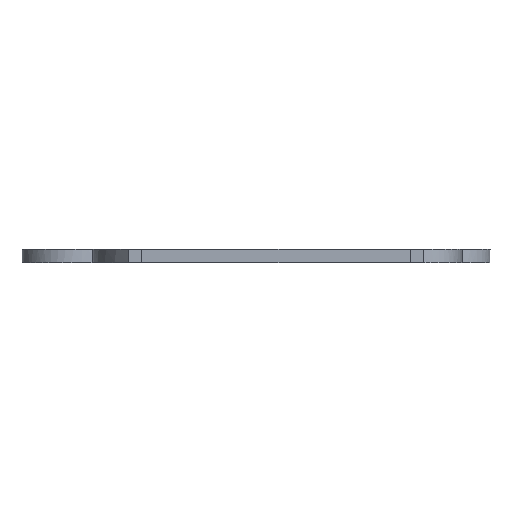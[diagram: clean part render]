
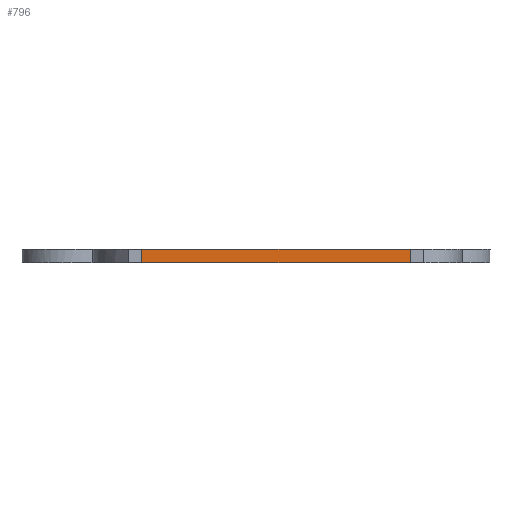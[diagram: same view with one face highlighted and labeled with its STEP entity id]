
A CAD part, front view. The second image highlights one B-rep face of the part: STEP entity #796.
In plain terms, the highlighted planar face has unit normal (0, -1, 0).
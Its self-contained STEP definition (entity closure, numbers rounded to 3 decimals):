
#64=PLANE('',#878);
#102=FACE_OUTER_BOUND('',#149,.T.);
#149=EDGE_LOOP('',(#691,#692,#693,#694));
#194=LINE('',#1121,#249);
#205=LINE('',#1230,#260);
#239=LINE('',#1433,#294);
#240=LINE('',#1435,#295);
#249=VECTOR('',#917,10.);
#260=VECTOR('',#958,10.);
#294=VECTOR('',#1054,10.);
#295=VECTOR('',#1057,10.);
#316=VERTEX_POINT('',#1118);
#317=VERTEX_POINT('',#1120);
#346=VERTEX_POINT('',#1227);
#347=VERTEX_POINT('',#1229);
#391=EDGE_CURVE('',#316,#317,#194,.T.);
#427=EDGE_CURVE('',#346,#347,#205,.T.);
#479=EDGE_CURVE('',#316,#347,#239,.T.);
#480=EDGE_CURVE('',#317,#346,#240,.T.);
#691=ORIENTED_EDGE('',*,*,#479,.T.);
#692=ORIENTED_EDGE('',*,*,#427,.F.);
#693=ORIENTED_EDGE('',*,*,#480,.F.);
#694=ORIENTED_EDGE('',*,*,#391,.F.);
#796=ADVANCED_FACE('',(#102),#64,.T.);
#878=AXIS2_PLACEMENT_3D('',#1434,#1055,#1056);
#917=DIRECTION('',(-1.,0.,0.));
#958=DIRECTION('',(1.,0.,0.));
#1054=DIRECTION('',(0.,0.,1.));
#1055=DIRECTION('center_axis',(0.,-1.,0.));
#1056=DIRECTION('ref_axis',(1.,0.,0.));
#1057=DIRECTION('',(0.,0.,1.));
#1118=CARTESIAN_POINT('',(50.,-19.8,-2.5));
#1120=CARTESIAN_POINT('',(-50.,-19.8,-2.5));
#1121=CARTESIAN_POINT('',(-50.,-19.8,-2.5));
#1227=CARTESIAN_POINT('',(-50.,-19.8,2.5));
#1229=CARTESIAN_POINT('',(50.,-19.8,2.5));
#1230=CARTESIAN_POINT('',(-50.,-19.8,2.5));
#1433=CARTESIAN_POINT('',(50.,-19.8,0.));
#1434=CARTESIAN_POINT('Origin',(-50.,-19.8,0.));
#1435=CARTESIAN_POINT('',(-50.,-19.8,0.));
